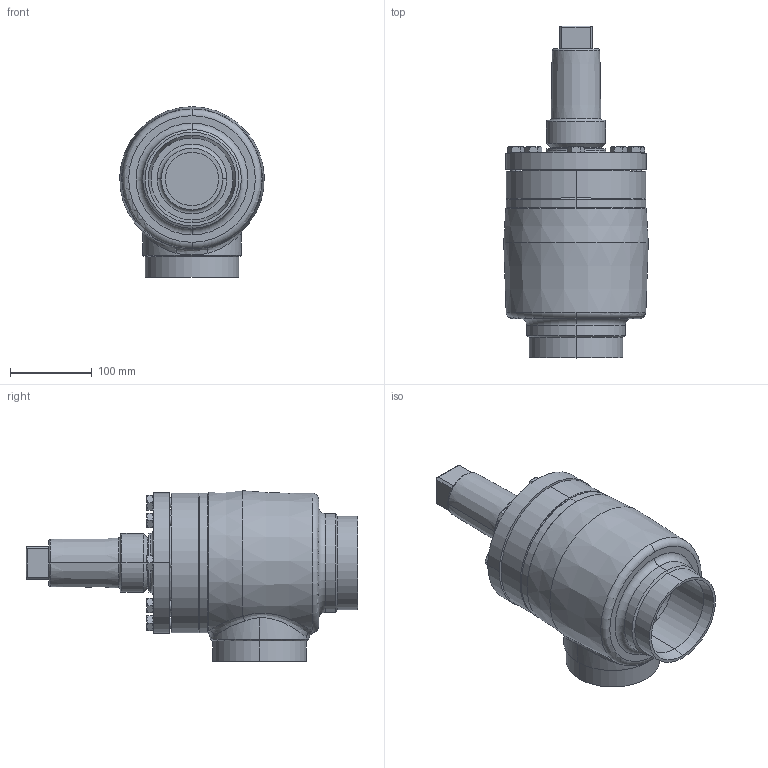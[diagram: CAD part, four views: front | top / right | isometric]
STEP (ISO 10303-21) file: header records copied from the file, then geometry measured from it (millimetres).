
FILE_DESCRIPTION (( 'STEP AP214' ), '1' );
FILE_NAME ('RVAK27400D19-DN100_R1_PS40.STEP', '2007-01-08T09:24:51', ( 'Herr Grams' ), ( 'AWP GmbH' ), 'SwSTEP 2.0', 'SolidWorks 2002296', '' );
FILE_SCHEMA (( 'AUTOMOTIVE_DESIGN' ));
Length unit declared in the file: millimetre
Products named in the file (9): RVAK27400D19-DN100_R1_PS40; RVA29300E19_Deck-Schr-DN100_Standard; Deckel29300E19-DN100_Standard; Sechskantschraube-DIN933_M12x 35; Kappe16402_DN080-100_Standard; Gehäuse-kpl16400-DN100_R1_Standard; Gehäuse16400-DN100_Standard; bead-DN100-1_Standard; Kopfstück16300-DN100_Standard
Assembly tree (15 placements, depth 3):
  RVAK27400D19-DN100_R1_PS40
    Kappe16402_DN080-100_Standard
    RVA29300E19_Deck-Schr-DN100_Standard
      Deckel29300E19-DN100_Standard
      Sechskantschraube-DIN933_M12x 35  x8
    Gehäuse-kpl16400-DN100_R1_Standard
      bead-DN100-1_Standard
      Kopfstück16300-DN100_Standard
      Gehäuse16400-DN100_Standard
Bounding box: 176.38 x 405 x 208.23 mm (x, y, z)
Volume: 3085823.3 mm3; surface area: 451501.6 mm2
Topology: 13 solids, 13 shells, 350 faces, 752 edges, 451 vertices
Faces by surface type: cone 132, plane 103, cylinder 91, torus 14, bspline 10
Entity records: 17241 total; most frequent: CARTESIAN_POINT 12639, DIRECTION 887, ORIENTED_EDGE 776, EDGE_CURVE 388, AXIS2_PLACEMENT_3D 387, VERTEX_POINT 241, EDGE_LOOP 215, CIRCLE 202
